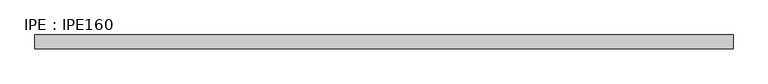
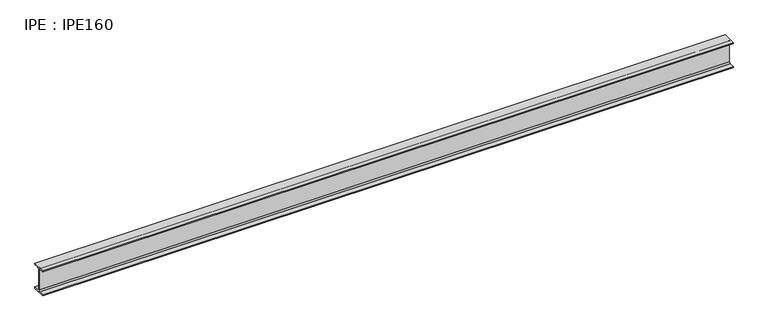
"""IFC4 building model written with IfcOpenShell, lengths in millimetres: beam geometry, IPE : IPE160."""

from ifc_helpers import new_model, si_unit, point, frame, frame_2d, origin, place, context, project, spatial, polyline, circle_curve, trimmed, segment, composite_curve, outline, extrude, source, transform, mapped, element, save


def ipe_ipe160_a0352096(model_context):
    return source(origin(), model_context, "Body", "SweptSolid", [
        extrude(outline(composite_curve([segment(polyline([(41.0, -72.6), (41.0, -80.0), (-41.0, -80.0), (-41.0, -72.6), (-11.5, -72.6)]), True, "CONTINUOUS"), segment(trimmed(circle_curve(frame_2d((-11.5, -63.6)), 9.0), [point((-11.5, -72.6))], [point((-2.5, -63.6))], True, "CARTESIAN"), True, "CONTINUOUS"), segment(polyline([(-2.5, -63.6), (-2.5, 63.6)]), True, "CONTINUOUS"), segment(trimmed(circle_curve(frame_2d((-11.5, 63.6)), 9.0), [point((-2.5, 63.6))], [point((-11.5, 72.6))], True, "CARTESIAN"), True, "CONTINUOUS"), segment(polyline([(-11.5, 72.6), (-41.0, 72.6), (-41.0, 80.0), (41.0, 80.0), (41.0, 72.6), (11.5, 72.6)]), True, "CONTINUOUS"), segment(trimmed(circle_curve(frame_2d((11.5, 63.6)), 9.0), [point((11.5, 72.6))], [point((2.5, 63.6))], True, "CARTESIAN"), True, "CONTINUOUS"), segment(polyline([(2.5, 63.6), (2.5, -63.6)]), True, "CONTINUOUS"), segment(trimmed(circle_curve(frame_2d((11.5, -63.6)), 9.0), [point((2.5, -63.6))], [point((11.5, -72.6))], True, "CARTESIAN"), True, "CONTINUOUS"), segment(polyline([(11.5, -72.6), (41.0, -72.6)]), True, "CONTINUOUS")], self_intersect=False)), frame((-2044.3, 0.0, 0.0), z_axis=(1.0, 0.0, 0.0), x_axis=(0.0, 1.0, 0.0)), (0.0, 0.0, 1.0), 4163.1),
    ])


if __name__ == "__main__":
    model = new_model("IFC4")
    model_context = context("Model", 3, world=origin())
    ifc_project = project(units=[si_unit("LENGTHUNIT", "METRE", prefix="MILLI")], contexts=[model_context])
    site = spatial("IfcSite", under=ifc_project)
    building = spatial("IfcBuilding", under=site)
    placement = place(None, origin())
    ipe_ipe160_shape = ipe_ipe160_a0352096(model_context)
    element("IfcBeam", 1, ObjectType="IPE : IPE160", at=placement, inside=building, context=model_context, shape_type="MappedRepresentation", body=[
        mapped(ipe_ipe160_shape, transform((0.0, 0.0, 0.0), x_axis=(1.0, 0.0, 0.0), y_axis=(0.0, 1.0, 0.0), z_axis=(0.0, 0.0, 1.0))),
    ])
    save(model, "model.ifc")
